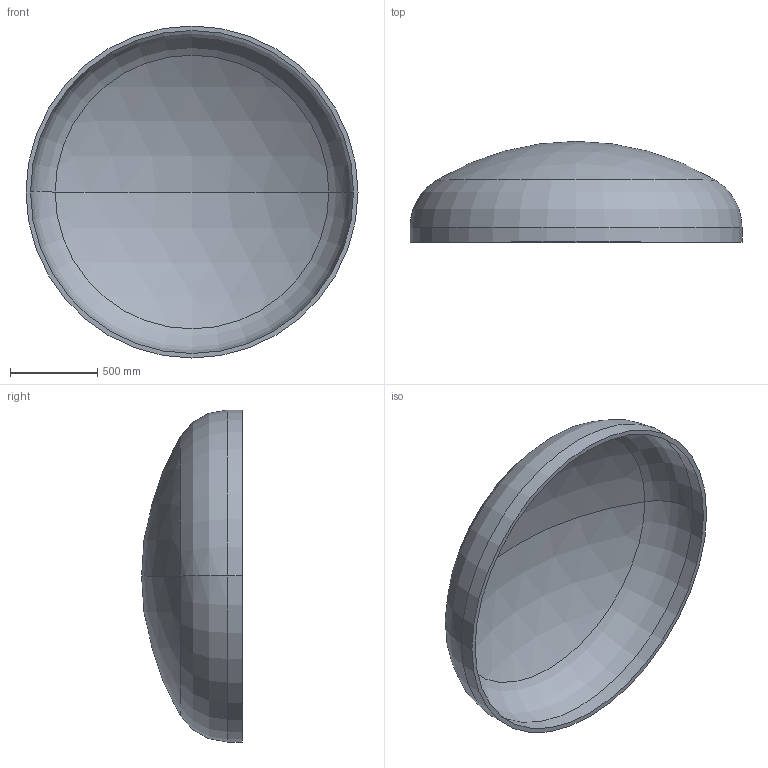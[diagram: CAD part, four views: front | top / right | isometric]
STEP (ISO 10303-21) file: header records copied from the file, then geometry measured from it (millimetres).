
FILE_DESCRIPTION (( 'STEP AP203' ), '1' );
FILE_NAME ('DIN 28013 Korbbogenform_-_Boden DIN 28013 - 1900 x 85 - I - s=26.step', '2016-07-01T13:02:06', ( '' ), ( '' ), 'SwSTEP 2.0', 'SolidWorks 2013', '' );
FILE_SCHEMA (( 'CONFIG_CONTROL_DESIGN' ));
Length unit declared in the file: millimetre
Products named in the file (1): DIN 28013 Korbbogenform_-_Boden DIN 28013 - 1900 x 85 - I - s=26
Bounding box: 1900 x 576.99 x 1900 mm (x, y, z)
Volume: 113103572.2 mm3; surface area: 8854758.5 mm2
Topology: 1 solids, 1 shells, 13 faces, 24 edges, 14 vertices
Faces by surface type: torus 4, cylinder 4, sphere 4, plane 1
Entity records: 407 total; most frequent: DIRECTION 72, CARTESIAN_POINT 52, ORIENTED_EDGE 48, AXIS2_PLACEMENT_3D 34, EDGE_CURVE 24, CIRCLE 20, VERTEX_POINT 14, EDGE_LOOP 14
